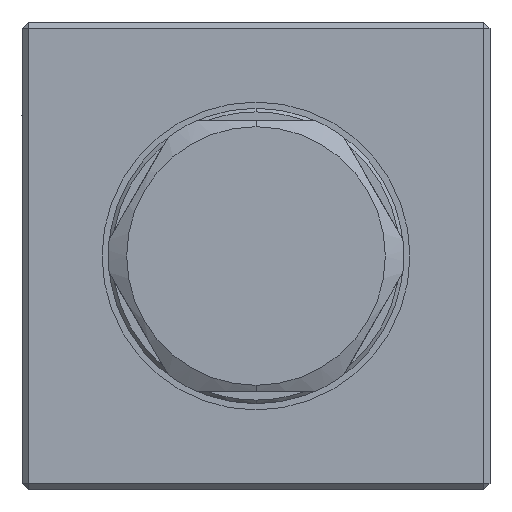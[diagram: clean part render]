
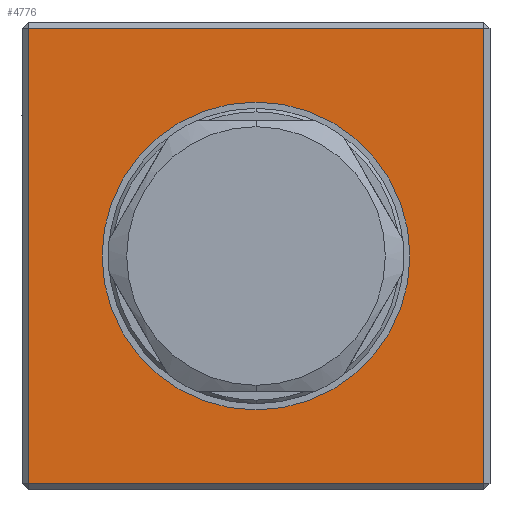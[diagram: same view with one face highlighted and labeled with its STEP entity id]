
A CAD part, left-side view. The second image highlights one B-rep face of the part: STEP entity #4776.
In plain terms, the highlighted planar face has unit normal (-1, 0, 0).
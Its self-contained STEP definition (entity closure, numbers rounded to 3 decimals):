
#4107 = EDGE_CURVE ( 'NONE', #8242, #8243, #13213, .T. ) ;
#4229 = EDGE_CURVE ( 'NONE', #8502, #8503, #23378, .T. ) ;
#4230 = EDGE_CURVE ( 'NONE', #8501, #8502, #23381, .T. ) ;
#4231 = EDGE_CURVE ( 'NONE', #8503, #8504, #23384, .T. ) ;
#4232 = EDGE_CURVE ( 'NONE', #8504, #8501, #23387, .T. ) ;
#4233 = EDGE_CURVE ( 'NONE', #8243, #8242, #13263, .T. ) ;
#4776 = ADVANCED_FACE ( 'NONE', ( #26639, #26644 ), #26500, .F. ) ;
#5193 = ORIENTED_EDGE ( 'NONE', *, *, #4230, .T. ) ;
#5194 = ORIENTED_EDGE ( 'NONE', *, *, #4231, .T. ) ;
#5195 = ORIENTED_EDGE ( 'NONE', *, *, #4229, .T. ) ;
#5196 = ORIENTED_EDGE ( 'NONE', *, *, #4232, .T. ) ;
#5198 = ORIENTED_EDGE ( 'NONE', *, *, #4233, .F. ) ;
#5200 = ORIENTED_EDGE ( 'NONE', *, *, #4107, .F. ) ;
#8242 = VERTEX_POINT ( 'NONE', #31687 ) ;
#8243 = VERTEX_POINT ( 'NONE', #31688 ) ;
#8446 = EDGE_LOOP ( 'NONE', ( #5193, #5195, #5194, #5196 ) ) ;
#8447 = EDGE_LOOP ( 'NONE', ( #5198, #5200 ) ) ;
#8501 = VERTEX_POINT ( 'NONE', #31873 ) ;
#8502 = VERTEX_POINT ( 'NONE', #31874 ) ;
#8503 = VERTEX_POINT ( 'NONE', #31875 ) ;
#8504 = VERTEX_POINT ( 'NONE', #31876 ) ;
#13213 = CIRCLE ( 'NONE', #22765, 12.5 ) ;
#13263 = CIRCLE ( 'NONE', #23314, 12.5 ) ;
#22724 = CARTESIAN_POINT ( 'NONE',  ( 0., 0., 0. ) ) ;
#22725 = DIRECTION ( 'NONE',  ( -1., 0., 0. ) ) ;
#22726 = DIRECTION ( 'NONE',  ( 0., -1., 0. ) ) ;
#22765 = AXIS2_PLACEMENT_3D ( 'NONE', #22724, #22725, #22726 ) ;
#23314 = AXIS2_PLACEMENT_3D ( 'NONE', #23377, #23390, #23391 ) ;
#23315 = VECTOR ( 'NONE', #23380, 1000. ) ;
#23316 = VECTOR ( 'NONE', #23383, 1000. ) ;
#23317 = VECTOR ( 'NONE', #23386, 1000. ) ;
#23319 = VECTOR ( 'NONE', #23389, 1000. ) ;
#23377 = CARTESIAN_POINT ( 'NONE',  ( 0., 0., 0. ) ) ;
#23378 = LINE ( 'NONE', #23379, #23315 ) ;
#23379 = CARTESIAN_POINT ( 'NONE',  ( 0., -18.5, 19. ) ) ;
#23380 = DIRECTION ( 'NONE',  ( 0., 0., 1. ) ) ;
#23381 = LINE ( 'NONE', #23382, #23316 ) ;
#23382 = CARTESIAN_POINT ( 'NONE',  ( 0., -19., -18.5 ) ) ;
#23383 = DIRECTION ( 'NONE',  ( 0., -1., 0. ) ) ;
#23384 = LINE ( 'NONE', #23385, #23317 ) ;
#23385 = CARTESIAN_POINT ( 'NONE',  ( 0., -19., 18.5 ) ) ;
#23386 = DIRECTION ( 'NONE',  ( 0., 1., 0. ) ) ;
#23387 = LINE ( 'NONE', #23388, #23319 ) ;
#23388 = CARTESIAN_POINT ( 'NONE',  ( 0., 18.5, 19. ) ) ;
#23389 = DIRECTION ( 'NONE',  ( 0., 0., -1. ) ) ;
#23390 = DIRECTION ( 'NONE',  ( -1., 0., 0. ) ) ;
#23391 = DIRECTION ( 'NONE',  ( 0., -1., 0. ) ) ;
#26500 = PLANE ( 'NONE',  #26646 ) ;
#26501 = CARTESIAN_POINT ( 'NONE',  ( 0., -19., 19. ) ) ;
#26502 = DIRECTION ( 'NONE',  ( 1., 0., 0. ) ) ;
#26503 = DIRECTION ( 'NONE',  ( 0., 0., -1. ) ) ;
#26639 = FACE_OUTER_BOUND ( 'NONE', #8446, .T. ) ;
#26644 = FACE_BOUND ( 'NONE', #8447, .T. ) ;
#26646 = AXIS2_PLACEMENT_3D ( 'NONE', #26501, #26502, #26503 ) ;
#31687 = CARTESIAN_POINT ( 'NONE',  ( 0., 12.5, 0. ) ) ;
#31688 = CARTESIAN_POINT ( 'NONE',  ( 0., -12.5, 0. ) ) ;
#31873 = CARTESIAN_POINT ( 'NONE',  ( 0., 18.5, -18.5 ) ) ;
#31874 = CARTESIAN_POINT ( 'NONE',  ( 0., -18.5, -18.5 ) ) ;
#31875 = CARTESIAN_POINT ( 'NONE',  ( 0., -18.5, 18.5 ) ) ;
#31876 = CARTESIAN_POINT ( 'NONE',  ( 0., 18.5, 18.5 ) ) ;
